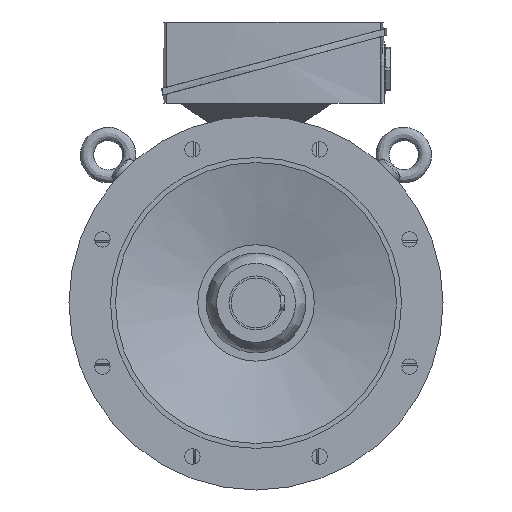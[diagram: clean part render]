
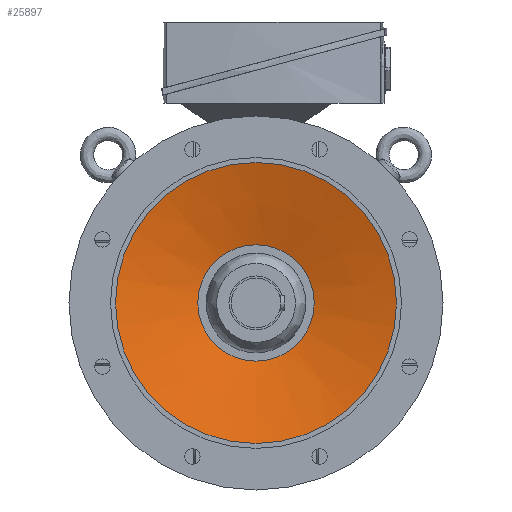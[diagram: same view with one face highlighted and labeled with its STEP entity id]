
A CAD part, left-side view. The second image highlights one B-rep face of the part: STEP entity #25897.
In plain terms, the highlighted conical face has half-angle 74.208 degrees and reference radius 169 mm.
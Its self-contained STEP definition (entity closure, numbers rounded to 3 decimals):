
#10949 = CARTESIAN_POINT ( 'NONE',  ( -85., 0., 0. ) ) ;
#10962 = DIRECTION ( 'NONE',  ( -1., 0., 0. ) ) ;
#10968 = DIRECTION ( 'NONE',  ( 0., 0., 1. ) ) ;
#11634 = FACE_OUTER_BOUND ( 'NONE', #29592, .T. ) ;
#11635 = FACE_BOUND ( 'NONE', #29591, .T. ) ;
#11644 = CONICAL_SURFACE ( 'NONE', #11794, 169., 1.295 ) ;
#11794 = AXIS2_PLACEMENT_3D ( 'NONE', #10949, #10962, #10968 ) ;
#12187 = AXIS2_PLACEMENT_3D ( 'NONE', #15252, #15253, #15254 ) ;
#12188 = AXIS2_PLACEMENT_3D ( 'NONE', #15256, #15257, #15258 ) ;
#12746 = CIRCLE ( 'NONE', #12187, 70. ) ;
#12747 = CIRCLE ( 'NONE', #12188, 169. ) ;
#15252 = CARTESIAN_POINT ( 'NONE',  ( -57., 0., 0. ) ) ;
#15253 = DIRECTION ( 'NONE',  ( -1., 0., 0. ) ) ;
#15254 = DIRECTION ( 'NONE',  ( 0., 0., 1. ) ) ;
#15256 = CARTESIAN_POINT ( 'NONE',  ( -85., 0., 0. ) ) ;
#15257 = DIRECTION ( 'NONE',  ( -1., 0., 0. ) ) ;
#15258 = DIRECTION ( 'NONE',  ( 0., 0., 1. ) ) ;
#22074 = VERTEX_POINT ( 'NONE', #23940 ) ;
#22075 = VERTEX_POINT ( 'NONE', #23941 ) ;
#23940 = CARTESIAN_POINT ( 'NONE',  ( -57., 0., 70. ) ) ;
#23941 = CARTESIAN_POINT ( 'NONE',  ( -85., 0., 169. ) ) ;
#25897 = ADVANCED_FACE ( 'NONE', ( #11634, #11635 ), #11644, .F. ) ;
#28303 = EDGE_CURVE ( 'NONE', #22074, #22074, #12746, .T. ) ;
#28304 = EDGE_CURVE ( 'NONE', #22075, #22075, #12747, .T. ) ;
#29042 = ORIENTED_EDGE ( 'NONE', *, *, #28304, .T. ) ;
#29043 = ORIENTED_EDGE ( 'NONE', *, *, #28303, .F. ) ;
#29591 = EDGE_LOOP ( 'NONE', ( #29043 ) ) ;
#29592 = EDGE_LOOP ( 'NONE', ( #29042 ) ) ;
